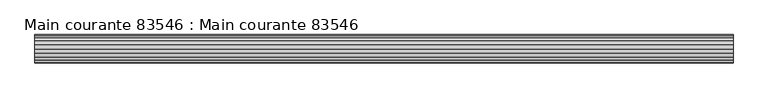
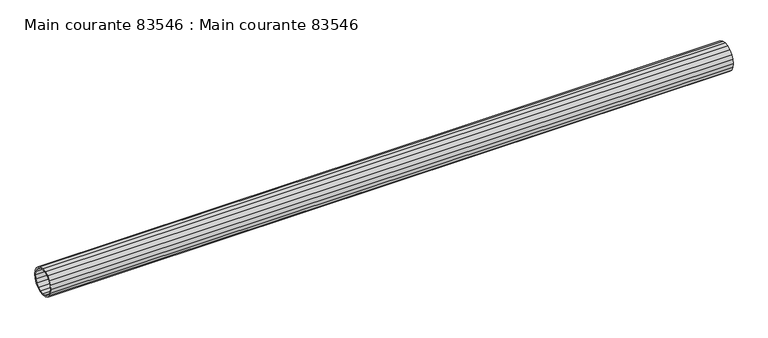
"""IFC4 building model written with IfcOpenShell, lengths in millimetres: beam geometry, Main courante 83546 : Main courante 83546."""

from ifc_helpers import new_model, si_unit, frame, origin, place, context, project, spatial, polyline, outline, extrude, source, transform, mapped, element, save


def main_courante_83546_main_courante_83546_907d9709(model_context):
    return source(origin(), model_context, "Body", "SweptSolid", [
        extrude(outline(polyline([(-24956.0, 8765.0), (-24954.8180149, 8772.4627604), (-24951.3877604, 8779.1950138), (-24946.0450138, 8784.5377604), (-24939.3127604, 8787.9680149), (-24931.85, 8789.15), (-24924.3872396, 8787.9680149), (-24917.6549862, 8784.5377604), (-24912.3122396, 8779.1950138), (-24908.8819851, 8772.4627604), (-24907.7, 8765.0), (-24908.8819851, 8757.5372396), (-24912.3122396, 8750.8049862), (-24917.6549862, 8745.4622396), (-24924.3872396, 8742.0319851), (-24931.85, 8740.85), (-24939.3127604, 8742.0319851), (-24946.0450138, 8745.4622396), (-24951.3877604, 8750.8049862), (-24954.8180149, 8757.5372396), (-24956.0, 8765.0)]), holes=[polyline([(-24910.2, 8765.0), (-24911.2596264, 8771.6902179), (-24914.3347821, 8777.7255507), (-24919.1244493, 8782.5152179), (-24925.1597821, 8785.5903736), (-24931.85, 8786.65), (-24938.5402179, 8785.5903736), (-24944.5755507, 8782.5152179), (-24949.3652179, 8777.7255507), (-24952.4403736, 8771.6902179), (-24953.5, 8765.0), (-24952.4403736, 8758.3097821), (-24949.3652179, 8752.2744493), (-24944.5755507, 8747.4847821), (-24938.5402179, 8744.4096264), (-24931.85, 8743.35), (-24925.1597821, 8744.4096264), (-24919.1244493, 8747.4847821), (-24914.3347821, 8752.2744493), (-24911.2596264, 8758.3097821), (-24910.2, 8765.0)])]), frame((2478.4999999, 0.0, 0.0), z_axis=(1.0, 0.0, 0.0), x_axis=(0.0, 1.0, 0.0)), (0.0, 0.0, 1.0), 1192.0),
    ])


if __name__ == "__main__":
    model = new_model("IFC4")
    model_context = context("Model", 3, world=origin())
    ifc_project = project(units=[si_unit("LENGTHUNIT", "METRE", prefix="MILLI")], contexts=[model_context])
    site = spatial("IfcSite", under=ifc_project)
    building = spatial("IfcBuilding", under=site)
    placement = place(None, origin())
    main_courante_83546_main_courante_83546_shape = main_courante_83546_main_courante_83546_907d9709(model_context)
    element("IfcBeam", 1, ObjectType="Main courante 83546 : Main courante 83546", at=placement, inside=building, context=model_context, shape_type="MappedRepresentation", body=[
        mapped(main_courante_83546_main_courante_83546_shape, transform((0.0, 0.0, 0.0), x_axis=(1.0, 0.0, 0.0), y_axis=(0.0, 1.0, 0.0), z_axis=(0.0, 0.0, 1.0))),
    ])
    save(model, "model.ifc")
